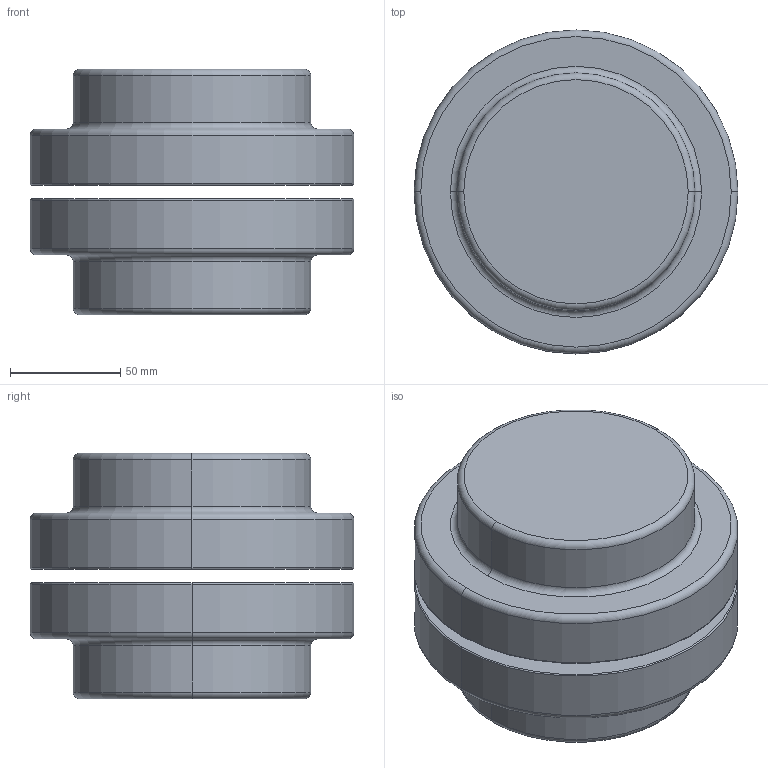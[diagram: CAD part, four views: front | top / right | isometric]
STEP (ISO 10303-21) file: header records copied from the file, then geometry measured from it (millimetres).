
FILE_DESCRIPTION (( 'STEP AP214' ), '1' );
FILE_NAME ('mobac_2x MTD-40 (ohne Bohrung).STEP', '2023-05-09T08:12:29', ( '' ), ( '' ), 'SwSTEP 2.0', 'SolidWorks 2022', '' );
FILE_SCHEMA (( 'AUTOMOTIVE_DESIGN' ));
Length unit declared in the file: millimetre
Products named in the file (1): mobac_2x MTD-40 (ohne Bohrung)
Bounding box: 147.07 x 147.07 x 111.51 mm (x, y, z)
Volume: 1295914.2 mm3; surface area: 109884 mm2
Topology: 2 solids, 2 shells, 36 faces, 68 edges, 40 vertices
Faces by surface type: torus 16, cylinder 12, plane 8
Entity records: 963 total; most frequent: DIRECTION 198, CARTESIAN_POINT 145, ORIENTED_EDGE 136, AXIS2_PLACEMENT_3D 93, EDGE_CURVE 68, CIRCLE 56, EDGE_LOOP 40, VERTEX_POINT 40
